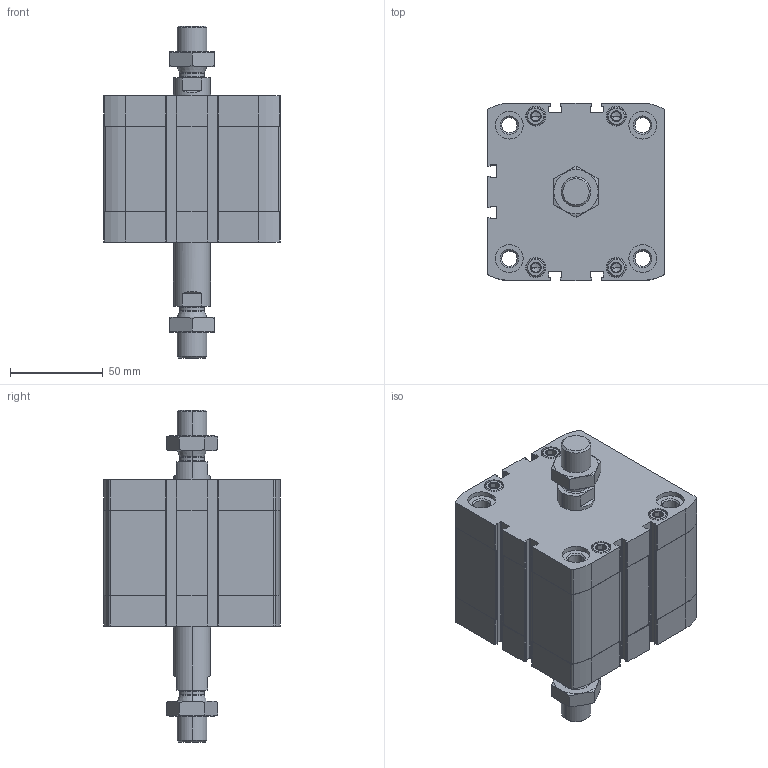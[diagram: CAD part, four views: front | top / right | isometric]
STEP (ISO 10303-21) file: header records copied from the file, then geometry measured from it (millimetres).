
FILE_DESCRIPTION (( 'STEP AP203' ), '1' );
FILE_NAME ('CCN80-25-P.STEP', '2020-06-22T19:06:07', ( '' ), ( '' ), 'SwSTEP 2.0', 'SolidWorks 2019', '' );
FILE_SCHEMA (( 'CONFIG_CONTROL_DESIGN' ));
Length unit declared in the file: millimetre
Products named in the file (1): CCN80-25-P
Bounding box: 95.5 x 95.5 x 179.2 mm (x, y, z)
Volume: 585112.7 mm3; surface area: 115321.7 mm2
Topology: 4 solids, 4 shells, 544 faces, 1352 edges, 848 vertices
Faces by surface type: plane 248, cylinder 196, cone 92, torus 8
Entity records: 17807 total; most frequent: CARTESIAN_POINT 4577, DIRECTION 2866, ORIENTED_EDGE 2672, EDGE_CURVE 1336, AXIS2_PLACEMENT_3D 1077, VERTEX_POINT 848, VECTOR 712, LINE 712
